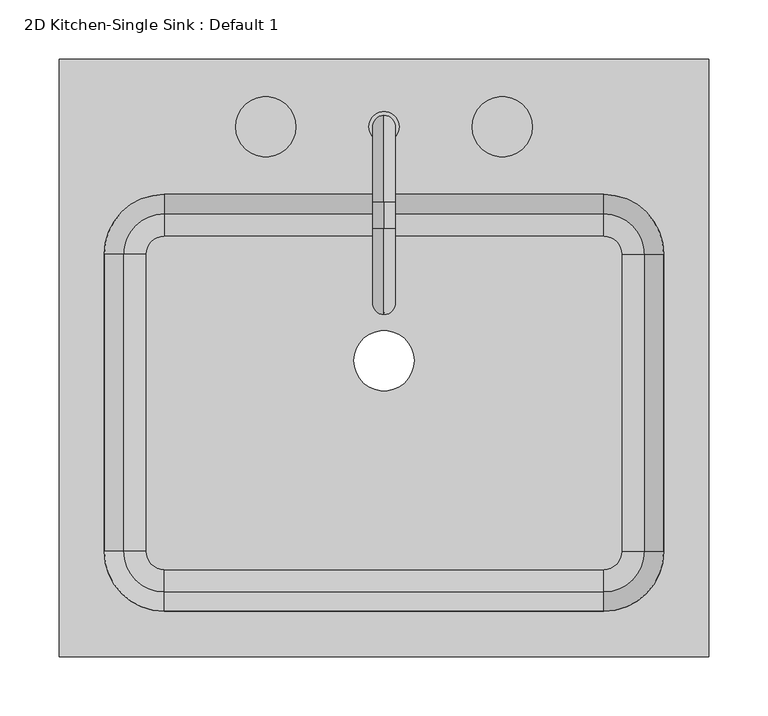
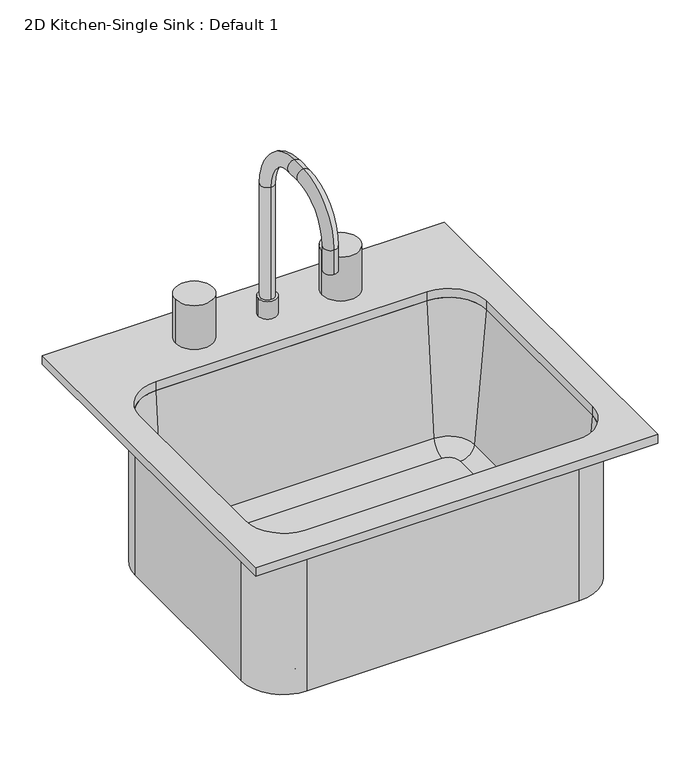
"""IFC4 building model written with IfcOpenShell, lengths in millimetres: flow terminal geometry, 2D Kitchen-Single Sink : Default 1."""

import ifcopenshell
import ifcopenshell.guid

model = None  # the IFC model being written
_history = None  # IfcOwnerHistory: only IFC2X3 demands one
_inside = {}  # id of a spatial element -> (the spatial element, [elements in it])
_under = {}  # id of a project, library or spatial element -> (it, [spatial elements below it])
_declared = {}  # id of a project -> (the project, [libraries it declares])
_typed = {}  # id of a type object -> (the type object, [elements of that type])
_made_of = {}  # id of a material, layer set ... -> (it, [elements and type objects made of it])


def new_model(schema):
    """Start an empty IFC model of exactly this schema.

    Asked for "IFC4X3", IfcOpenShell would pick the latest addendum, in which some entities
    have other attributes; the version numbers below select the first issue.
    IFC2X3 requires an IfcOwnerHistory on every rooted entity: one is made here for all.
    """
    global model, _history
    if schema == "IFC4X3":
        model = ifcopenshell.file(schema_version=(4, 3, 0, 0))
    else:
        model = ifcopenshell.file(schema=schema)
    _inside.clear()
    _under.clear()
    _declared.clear()
    _typed.clear()
    _made_of.clear()
    _history = None
    if model.schema == "IFC2X3":
        org = make("IfcOrganization", Name="unknown")
        user = make(
            "IfcPersonAndOrganization",
            ThePerson=make("IfcPerson", FamilyName="unknown"),
            TheOrganization=org,
        )
        app = make(
            "IfcApplication",
            ApplicationDeveloper=org,
            Version="unknown",
            ApplicationFullName="unknown",
            ApplicationIdentifier="unknown",
        )
        _history = make(
            "IfcOwnerHistory",
            OwningUser=user,
            OwningApplication=app,
            ChangeAction="ADDED",
            CreationDate=0,
        )
    return model


def make(cls, **values):
    """One entity of the class cls with the attributes given. An attribute that is None is left unset."""
    return model.create_entity(
        cls, **{name: value for name, value in values.items() if value is not None}
    )


def rooted(cls, **values):
    """An entity with a GlobalId (a new one), such as an element, a storey or a relation."""
    return make(cls, GlobalId=ifcopenshell.guid.new(), OwnerHistory=_history, **values)


def si_unit(unit_type, name, prefix=None):
    """IfcSIUnit, for example si_unit("LENGTHUNIT", "METRE", prefix="MILLI")."""
    return make("IfcSIUnit", UnitType=unit_type, Prefix=prefix, Name=name)


def assignment(units):
    """IfcUnitAssignment: the units of a project."""
    return None if units is None else make("IfcUnitAssignment", Units=units)


def point(xyz):
    """IfcCartesianPoint."""
    return None if xyz is None else make("IfcCartesianPoint", Coordinates=xyz)


def direction(xyz):
    """IfcDirection."""
    return None if xyz is None else make("IfcDirection", DirectionRatios=xyz)


def frame(location, z_axis=None, x_axis=None):
    """IfcAxis2Placement3D, a coordinate frame: its origin and axes. An axis left out is left unset."""
    return make(
        "IfcAxis2Placement3D",
        Location=point(location),
        Axis=direction(z_axis),
        RefDirection=direction(x_axis),
    )


def frame_2d(location, x_axis=None):
    """IfcAxis2Placement2D, a coordinate frame in the plane: its origin and x axis."""
    return make(
        "IfcAxis2Placement2D", Location=point(location), RefDirection=direction(x_axis)
    )


def origin():
    """The frame at (0, 0, 0) with its axes left unset."""
    return frame((0.0, 0.0, 0.0))


def place(relative_to, where):
    """IfcLocalPlacement: puts the frame where relative to a parent placement (None: the world)."""
    return make(
        "IfcLocalPlacement", PlacementRelTo=relative_to, RelativePlacement=where
    )


def context(
    kind, dimensions, precision=None, world=None, true_north=None, identifier=None
):
    """IfcGeometricRepresentationContext, for example the 3D "Model" context."""
    return make(
        "IfcGeometricRepresentationContext",
        ContextIdentifier=identifier,
        ContextType=kind,
        CoordinateSpaceDimension=dimensions,
        Precision=precision,
        WorldCoordinateSystem=world,
        TrueNorth=true_north,
    )


def project(units=None, contexts=None):
    """IfcProject with its units and contexts."""
    return rooted(
        "IfcProject",
        Name="project",
        RepresentationContexts=contexts,
        UnitsInContext=assignment(units),
    )


def spatial(cls, under=None, at=None, **own):
    """A site, building, storey or space (cls), placed at a placement, below another one or the project."""
    s = rooted(cls, ObjectPlacement=at, **own)
    if under is not None:
        _under.setdefault(under.id(), (under, []))[1].append(s)
    return s


def polyline(points):
    """IfcPolyline through the points."""
    return make("IfcPolyline", Points=[point(p) for p in points])


def circle_curve(where, radius):
    """IfcCircle in the frame where."""
    return make("IfcCircle", Position=where, Radius=radius)


def ellipse_curve(where, semi_axis1, semi_axis2):
    """IfcEllipse in the frame where."""
    return make(
        "IfcEllipse", Position=where, SemiAxis1=semi_axis1, SemiAxis2=semi_axis2
    )


def trimmed(basis, trim1, trim2, sense, master):
    """IfcTrimmedCurve: the piece of a basis curve between two trims."""
    return make(
        "IfcTrimmedCurve",
        BasisCurve=basis,
        Trim1=trim1,
        Trim2=trim2,
        SenseAgreement=sense,
        MasterRepresentation=master,
    )


def segment(curve, same_sense, transition):
    """IfcCompositeCurveSegment."""
    return make(
        "IfcCompositeCurveSegment",
        Transition=transition,
        SameSense=same_sense,
        ParentCurve=curve,
    )


def composite_curve(segments, self_intersect=None):
    """IfcCompositeCurve: segments joined end to end."""
    return make("IfcCompositeCurve", Segments=segments, SelfIntersect=self_intersect)


def outline(outer, holes=None, kind="AREA"):
    """IfcArbitraryClosedProfileDef: a profile drawn as a closed curve; with holes, ...WithVoids."""
    if holes is None:
        return make("IfcArbitraryClosedProfileDef", ProfileType=kind, OuterCurve=outer)
    return make(
        "IfcArbitraryProfileDefWithVoids",
        ProfileType=kind,
        OuterCurve=outer,
        InnerCurves=holes,
    )


def extrude(swept, where, along, depth):
    """IfcExtrudedAreaSolid: the profile swept, set in the frame where, extruded along a direction by depth."""
    return make(
        "IfcExtrudedAreaSolid",
        SweptArea=swept,
        Position=where,
        ExtrudedDirection=direction(along),
        Depth=depth,
    )


def shape(context_of_items, identifier, shape_type, items):
    """IfcShapeRepresentation: the items that make up one representation, for example the "Body"."""
    return make(
        "IfcShapeRepresentation",
        ContextOfItems=context_of_items,
        RepresentationIdentifier=identifier,
        RepresentationType=shape_type,
        Items=items,
    )


def source(mapping_origin, context_of_items, identifier, shape_type, items):
    """IfcRepresentationMap: a shape defined once, which mapped items show again and again."""
    return make(
        "IfcRepresentationMap",
        MappingOrigin=mapping_origin,
        MappedRepresentation=shape(context_of_items, identifier, shape_type, items),
    )


def transform(
    local_origin,
    x_axis=None,
    y_axis=None,
    z_axis=None,
    scale=None,
    scale2=None,
    scale3=None,
    uniform=True,
):
    """IfcCartesianTransformationOperator3D, or its non-uniform kind. x_axis, y_axis, z_axis: its Axis1, 2, 3."""
    if uniform:
        return make(
            "IfcCartesianTransformationOperator3D",
            Axis1=direction(x_axis),
            Axis2=direction(y_axis),
            LocalOrigin=point(local_origin),
            Scale=scale,
            Axis3=direction(z_axis),
        )
    return make(
        "IfcCartesianTransformationOperator3DnonUniform",
        Axis1=direction(x_axis),
        Axis2=direction(y_axis),
        LocalOrigin=point(local_origin),
        Scale=scale,
        Axis3=direction(z_axis),
        Scale2=scale2,
        Scale3=scale3,
    )


def mapped(mapping_source, mapping_target):
    """IfcMappedItem: shows the shape of a source again, moved by a transform."""
    return make(
        "IfcMappedItem", MappingSource=mapping_source, MappingTarget=mapping_target
    )


def made_of(thing, what):
    """Note that an element or type object is made of a material, layer set ...; save() writes the relation."""
    if what is not None:
        _made_of.setdefault(what.id(), (what, []))[1].append(thing)
    return thing


def element(
    cls,
    number,
    at=None,
    inside=None,
    cuts=None,
    type_object=None,
    material=None,
    context=None,
    identifier="Body",
    shape_type=None,
    held_by="IfcProductDefinitionShape",
    body=None,
    shapes=None,
    **own,
):
    """One element of the class cls, such as IfcWall. Its Tag is "e" and its number.

    at: its placement. inside: the storey or other place that contains it. cuts: it is an
    opening in that element (IfcRelVoidsElement). A single representation is given by context,
    identifier, shape_type and body (its items); several are given by shapes. held_by: the class
    of the entity that holds the representations. save() writes the other relations.
    """
    e = rooted(cls, Tag="e%d" % number, ObjectPlacement=at, **own)
    if body is not None:
        shapes = [shape(context, identifier, shape_type, body)]
    if shapes is not None:
        e.Representation = make(held_by, Representations=shapes)
    if inside is not None:
        _inside.setdefault(inside.id(), (inside, []))[1].append(e)
    if cuts is not None:
        rooted(
            "IfcRelVoidsElement", RelatingBuildingElement=cuts, RelatedOpeningElement=e
        )
    if type_object is not None:
        _typed.setdefault(type_object.id(), (type_object, []))[1].append(e)
    return made_of(e, material)


def aggregate(whole, parts):
    """IfcRelAggregates: a whole, such as a stair, and the parts it consists of."""
    return rooted("IfcRelAggregates", RelatingObject=whole, RelatedObjects=parts)


def save(model, path):
    """Write the relations noted so far, then the file.

    IfcRelAggregates (storeys below a building ...), IfcRelContainedInSpatialStructure (elements
    in a storey), IfcRelDefinesByType, IfcRelAssociatesMaterial and IfcRelDeclares: one each for
    every whole, place, type object, material and project.
    """
    for whole, parts in _under.values():
        aggregate(whole, parts)
    for where, things in _inside.values():
        rooted(
            "IfcRelContainedInSpatialStructure",
            RelatedElements=things,
            RelatingStructure=where,
        )
    for kind, things in _typed.values():
        rooted("IfcRelDefinesByType", RelatedObjects=things, RelatingType=kind)
    for what, things in _made_of.values():
        rooted("IfcRelAssociatesMaterial", RelatedObjects=things, RelatingMaterial=what)
    for by, libraries in _declared.values():
        rooted("IfcRelDeclares", RelatingContext=by, RelatedDefinitions=libraries)
    model.write(path)


def plane_surface(at):
    """IfcPlane: the flat surface through the origin of the frame at, square to its z axis."""
    return make("IfcPlane", Position=at)


def cylinder_surface(at, radius):
    """IfcCylindricalSurface: all points at the distance radius from the z axis of the frame at."""
    return make("IfcCylindricalSurface", Position=at, Radius=radius)


def revolved_surface(curve, axis_point, axis_direction):
    """IfcSurfaceOfRevolution: the curve turned about the line through axis_point along axis_direction."""
    return make(
        "IfcSurfaceOfRevolution",
        SweptCurve=make("IfcArbitraryOpenProfileDef", ProfileType="CURVE", Curve=curve),
        AxisPosition=make("IfcAxis1Placement", Location=point(axis_point), Axis=direction(axis_direction)),
    )


def advanced_brep(points, edges, surfaces, faces):
    """IfcAdvancedBrep: a solid bounded by faces that lie on surfaces and meet in shared edges.

    An edge is (start, end): straight between two places in points (the first is 0);
    or (start, end, curve); or (start, end, curve, False) where it runs against its curve.
    A face is (place in surfaces, loops), or (place, loops, False) where it looks against
    its surface's normal. A loop lists edges by number (the first is 1), with a minus sign
    where the edge is run from its end to its start. The first loop is the outer one.
    """
    corners = [point(p) for p in points]
    vertices = [make("IfcVertexPoint", VertexGeometry=c) for c in corners]
    made = []
    for start, end, *more in edges:
        made.append(
            make(
                "IfcEdgeCurve",
                EdgeStart=vertices[start],
                EdgeEnd=vertices[end],
                EdgeGeometry=more[0] if more else make("IfcPolyline", Points=[corners[start], corners[end]]),
                SameSense=more[1] if len(more) > 1 else True,
            )
        )
    hull = []
    for where, loops, *sense in faces:
        bounds = []
        for j, loop in enumerate(loops):
            ring = [make("IfcOrientedEdge", EdgeElement=made[abs(k) - 1], Orientation=k > 0) for k in loop]
            bounds.append(
                make(
                    "IfcFaceOuterBound" if j == 0 else "IfcFaceBound",
                    Bound=make("IfcEdgeLoop", EdgeList=ring),
                    Orientation=True,
                )
            )
        hull.append(make("IfcAdvancedFace", Bounds=bounds, FaceSurface=surfaces[where], SameSense=sense[0] if sense else True))
    return make("IfcAdvancedBrep", Outer=make("IfcClosedShell", CfsFaces=hull))


def flow_terminal_2d_kitchen_single_sink_default_1_ebf750c8(model_context):
    return source(origin(), model_context, "Body", "SolidModel", [
        advanced_brep(
        [(258.6392406, 89.7954011, 546.1), (201.4892406, 146.9454011, 546.1), (201.4892406, 146.9454011, 762.0), (258.6392406, 89.7954011, 762.0), (258.6392406, -161.3045989, 546.1), (201.4892406, -218.4545989, 546.1), (-170.1107594, -218.4545989, 546.1), (-227.2607594, -161.3045989, 546.1), (-227.2607594, 89.7954011, 546.1), (-170.1107594, 146.9454011, 546.1), (-9.7107594, 0.0, 546.1), (41.0892406, 0.0, 546.1), (216.7776588, 89.7954011, 555.625), (201.4892406, 105.0838193, 555.625), (-170.1107594, 105.0838193, 555.625), (-185.3991776, 89.7954011, 555.625), (-185.3991776, -161.3045989, 555.625), (-170.1107594, -176.5930171, 555.625), (201.4892406, -176.5930171, 555.625), (216.7776588, -161.3045989, 555.625), (-9.7107594, 0.0, 555.625), (41.0892406, 0.0, 555.625), (235.7551678, 89.7954011, 573.0146831), (201.4892406, 124.0613283, 573.0146831), (252.2892406, 89.7954011, 762.0), (201.4892406, 140.5954011, 762.0), (258.6392406, -161.3045989, 762.0), (235.7551678, -161.3045989, 573.0146831), (252.2892406, -161.3045989, 762.0), (201.4892406, -218.4545989, 762.0), (201.4892406, -195.5705261, 573.0146831), (201.4892406, -212.1045989, 762.0), (-170.1107594, -218.4545989, 762.0), (-170.1107594, -195.5705261, 573.0146831), (-170.1107594, -212.1045989, 762.0), (-227.2607594, -161.3045989, 762.0), (-204.3766866, -161.3045989, 573.0146831), (-220.9107594, -161.3045989, 762.0), (-227.2607594, 89.7954011, 762.0), (-204.3766866, 89.7954011, 573.0146831), (-220.9107594, 89.7954011, 762.0), (-170.1107594, 146.9454011, 762.0), (-170.1107594, 124.0613283, 573.0146831), (-170.1107594, 140.5954011, 762.0)],
        [
            (0, 1, circle_curve(frame((201.4892406, 89.7954011, 546.1), z_axis=(0.0, 0.0, 1.0), x_axis=(0.0, 1.0, 0.0)), 57.15)),
            (1, 2),
            (2, 3, circle_curve(frame((201.4892406, 89.7954011, 762.0), z_axis=(0.0, 0.0, -1.0), x_axis=(0.0, 1.0, 0.0)), 57.15)),
            (3, 0),
            (0, 4),
            (4, 5, circle_curve(frame((201.4892406, -161.3045989, 546.1), z_axis=(0.0, 0.0, -1.0), x_axis=(1.0, 0.0, 0.0)), 57.15)),
            (5, 6),
            (6, 7, circle_curve(frame((-170.1107594, -161.3045989, 546.1), z_axis=(0.0, 0.0, -1.0), x_axis=(0.0, -1.0, 0.0)), 57.15)),
            (7, 8),
            (8, 9, circle_curve(frame((-170.1107594, 89.7954011, 546.1), z_axis=(0.0, 0.0, -1.0), x_axis=(-1.0, 0.0, 0.0)), 57.15)),
            (9, 1),
            (10, 11, circle_curve(frame((15.6892406, 0.0, 546.1), z_axis=(0.0, 0.0, 1.0), x_axis=(1.0, 0.0, 0.0)), 25.4)),
            (11, 10, circle_curve(frame((15.6892406, 0.0, 546.1), z_axis=(0.0, 0.0, 1.0), x_axis=(1.0, 0.0, 0.0)), 25.4)),
            (12, 13, circle_curve(frame((201.4892406, 89.7954011, 555.625), z_axis=(0.0, 0.0, 1.0), x_axis=(0.0, 1.0, 0.0)), 15.2884182)),
            (13, 14),
            (14, 15, circle_curve(frame((-170.1107594, 89.7954011, 555.625), z_axis=(0.0, 0.0, 1.0), x_axis=(-1.0, 0.0, 0.0)), 15.2884182)),
            (15, 16),
            (16, 17, circle_curve(frame((-170.1107594, -161.3045989, 555.625), z_axis=(0.0, 0.0, 1.0), x_axis=(0.0, -1.0, 0.0)), 15.2884182)),
            (17, 18),
            (18, 19, circle_curve(frame((201.4892406, -161.3045989, 555.625), z_axis=(0.0, 0.0, 1.0), x_axis=(1.0, 0.0, 0.0)), 15.2884182)),
            (19, 12),
            (20, 21, circle_curve(frame((15.6892406, 0.0, 555.625), z_axis=(0.0, 0.0, -1.0), x_axis=(1.0, 0.0, 0.0)), 25.4)),
            (21, 20, circle_curve(frame((15.6892406, 0.0, 555.625), z_axis=(0.0, 0.0, -1.0), x_axis=(1.0, 0.0, 0.0)), 25.4)),
            (12, 22, circle_curve(frame((216.7776588, 89.7954011, 574.675), z_axis=(0.0, -1.0, 0.0), x_axis=(1.0, 0.0, 0.0)), 19.05)),
            (22, 23, circle_curve(frame((201.4892406, 89.7954011, 573.0146831), z_axis=(0.0, 0.0, 1.0), x_axis=(0.0, 1.0, 0.0)), 34.2659272)),
            (23, 13, circle_curve(frame((201.4892406, 105.0838193, 574.675), z_axis=(-1.0, 0.0, 0.0), x_axis=(0.0, 1.0, 0.0)), 19.05)),
            (22, 24),
            (24, 25, circle_curve(frame((201.4892406, 89.7954011, 762.0), z_axis=(0.0, 0.0, 1.0), x_axis=(0.0, 1.0, 0.0)), 50.8)),
            (25, 23),
            (2, 25),
            (24, 3),
            (3, 26),
            (26, 4),
            (19, 27, circle_curve(frame((216.7776588, -161.3045989, 574.675), z_axis=(0.0, -1.0, 0.0), x_axis=(1.0, 0.0, 0.0)), 19.05)),
            (27, 22),
            (27, 28),
            (28, 24),
            (28, 26),
            (26, 29, circle_curve(frame((201.4892406, -161.3045989, 762.0), z_axis=(0.0, 0.0, -1.0), x_axis=(1.0, 0.0, 0.0)), 57.15)),
            (29, 5),
            (18, 30, circle_curve(frame((201.4892406, -176.5930171, 574.675), z_axis=(-1.0, 0.0, 0.0), x_axis=(0.0, -1.0, 0.0)), 19.05)),
            (30, 27, circle_curve(frame((201.4892406, -161.3045989, 573.0146831), z_axis=(0.0, 0.0, 1.0), x_axis=(1.0, 0.0, 0.0)), 34.2659272)),
            (30, 31),
            (31, 28, circle_curve(frame((201.4892406, -161.3045989, 762.0), z_axis=(0.0, 0.0, 1.0), x_axis=(1.0, 0.0, 0.0)), 50.8)),
            (31, 29),
            (29, 32),
            (32, 6),
            (17, 33, circle_curve(frame((-170.1107594, -176.5930171, 574.675), z_axis=(-1.0, 0.0, 0.0), x_axis=(0.0, -1.0, 0.0)), 19.05)),
            (33, 30),
            (33, 34),
            (34, 31),
            (34, 32),
            (32, 35, circle_curve(frame((-170.1107594, -161.3045989, 762.0), z_axis=(0.0, 0.0, -1.0), x_axis=(0.0, -1.0, 0.0)), 57.15)),
            (35, 7),
            (16, 36, circle_curve(frame((-185.3991776, -161.3045989, 574.675), z_axis=(0.0, 1.0, 0.0), x_axis=(-1.0, 0.0, 0.0)), 19.05)),
            (36, 33, circle_curve(frame((-170.1107594, -161.3045989, 573.0146831), z_axis=(0.0, 0.0, 1.0), x_axis=(0.0, -1.0, 0.0)), 34.2659272)),
            (36, 37),
            (37, 34, circle_curve(frame((-170.1107594, -161.3045989, 762.0), z_axis=(0.0, 0.0, 1.0), x_axis=(0.0, -1.0, 0.0)), 50.8)),
            (37, 35),
            (35, 38),
            (38, 8),
            (15, 39, circle_curve(frame((-185.3991776, 89.7954011, 574.675), z_axis=(0.0, 1.0, 0.0), x_axis=(-1.0, 0.0, 0.0)), 19.05)),
            (39, 36),
            (39, 40),
            (40, 37),
            (40, 38),
            (38, 41, circle_curve(frame((-170.1107594, 89.7954011, 762.0), z_axis=(0.0, 0.0, -1.0), x_axis=(-1.0, 0.0, 0.0)), 57.15)),
            (41, 9),
            (14, 42, circle_curve(frame((-170.1107594, 105.0838193, 574.675), z_axis=(1.0, 0.0, 0.0), x_axis=(0.0, 1.0, 0.0)), 19.05)),
            (42, 39, circle_curve(frame((-170.1107594, 89.7954011, 573.0146831), z_axis=(0.0, 0.0, 1.0), x_axis=(-1.0, 0.0, 0.0)), 34.2659272)),
            (42, 43),
            (43, 40, circle_curve(frame((-170.1107594, 89.7954011, 762.0), z_axis=(0.0, 0.0, 1.0), x_axis=(-1.0, 0.0, 0.0)), 50.8)),
            (43, 41),
            (41, 2),
            (23, 42),
            (25, 43),
            (20, 10),
            (11, 21),
        ],
        [
            cylinder_surface(frame((201.4892406, 89.7954011, 0.0), z_axis=(0.0, 0.0, -1.0), x_axis=(0.0, 1.0, 0.0)), 57.15),
            plane_surface(frame((201.4892406, 89.7954011, 546.1), z_axis=(0.0, 0.0, -1.0), x_axis=(0.0, 1.0, 0.0))),
            plane_surface(frame((201.4892406, 89.7954011, 555.625), z_axis=(0.0, 0.0, 1.0), x_axis=(0.0, 1.0, 0.0))),
            revolved_surface(trimmed(ellipse_curve(frame((201.4892406, 105.0838193, 574.675), z_axis=(1.0, 0.0, 0.0), x_axis=(0.0, 1.0, 0.0)), 19.05, 19.05), [point((201.4892406, 105.0838193, 555.625))], [point((201.4892406, 124.0613283, 573.0146831))], True, "CARTESIAN"), (201.4892406, 89.7954011, 0.0), (0.0, 0.0, -1.0)),
            revolved_surface(polyline([(201.4892406, 124.0613283, 573.0146831), (201.4892406, 140.5954011, 762.0)]), (201.4892406, 89.7954011, 0.0), (0.0, 0.0, -1.0)),
            plane_surface(frame((201.4892406, 89.7954011, 762.0), z_axis=(0.0, 0.0, 1.0), x_axis=(0.0, 1.0, 0.0))),
            plane_surface(frame((258.6392406, 89.7954011, 762.0), z_axis=(1.0, 0.0, 0.0), x_axis=(0.0, -1.0, 0.0))),
            revolved_surface(polyline([(235.82765880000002, -161.30459890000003, 574.675), (235.82765880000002, 89.7954011, 574.675)]), (216.7776588, 89.7954011, 574.675), (0.0, -1.0, 0.0)),
            plane_surface(frame((235.7551678, 89.7954011, 573.0146831), z_axis=(-0.9961946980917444, 0.0, 0.08715574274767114), x_axis=(0.0, -1.0, 0.0))),
            plane_surface(frame((252.2892406, 89.7954011, 762.0), z_axis=(0.0, 0.0, 1.0), x_axis=(0.0, -1.0, 0.0))),
            cylinder_surface(frame((201.4892406, -161.3045989, 0.0), z_axis=(0.0, 0.0, -1.0), x_axis=(1.0, 0.0, 0.0)), 57.15),
            revolved_surface(trimmed(ellipse_curve(frame((216.7776588, -161.3045989, 574.675), z_axis=(0.0, -1.0, 0.0), x_axis=(1.0, 0.0, 0.0)), 19.05, 19.05), [point((216.7776588, -161.3045989, 555.625))], [point((235.7551678, -161.3045989, 573.0146831))], True, "CARTESIAN"), (201.4892406, -161.3045989, 0.0), (0.0, 0.0, -1.0)),
            revolved_surface(polyline([(235.7551678, -161.3045989, 573.0146831), (252.2892406, -161.3045989, 762.0)]), (201.4892406, -161.3045989, 0.0), (0.0, 0.0, -1.0)),
            plane_surface(frame((201.4892406, -161.3045989, 762.0), z_axis=(0.0, 0.0, 1.0), x_axis=(1.0, 0.0, 0.0))),
            plane_surface(frame((201.4892406, -218.4545989, 762.0), z_axis=(0.0, -1.0, 0.0), x_axis=(-1.0, 0.0, 0.0))),
            revolved_surface(polyline([(-170.11075940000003, -195.6430171, 574.675), (201.4892406, -195.6430171, 574.675)]), (201.4892406, -176.5930171, 574.675), (-1.0, 0.0, 0.0)),
            plane_surface(frame((201.4892406, -195.5705261, 573.0146831), z_axis=(0.0, 0.9961946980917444, 0.08715574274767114), x_axis=(-1.0, 0.0, 0.0))),
            plane_surface(frame((201.4892406, -212.1045989, 762.0), z_axis=(0.0, 0.0, 1.0), x_axis=(-1.0, 0.0, 0.0))),
            cylinder_surface(frame((-170.1107594, -161.3045989, 0.0), z_axis=(0.0, 0.0, -1.0), x_axis=(0.0, -1.0, 0.0)), 57.15),
            revolved_surface(trimmed(ellipse_curve(frame((-170.1107594, -176.5930171, 574.675), z_axis=(-1.0, 0.0, 0.0), x_axis=(0.0, -1.0, 0.0)), 19.05, 19.05), [point((-170.1107594, -176.5930171, 555.625))], [point((-170.1107594, -195.5705261, 573.0146831))], True, "CARTESIAN"), (-170.1107594, -161.3045989, 0.0), (0.0, 0.0, -1.0)),
            revolved_surface(polyline([(-170.1107594, -195.5705261, 573.0146831), (-170.1107594, -212.1045989, 762.0)]), (-170.1107594, -161.3045989, 0.0), (0.0, 0.0, -1.0)),
            plane_surface(frame((-170.1107594, -161.3045989, 762.0), z_axis=(0.0, 0.0, 1.0), x_axis=(0.0, -1.0, 0.0))),
            plane_surface(frame((-227.2607594, -161.3045989, 762.0), z_axis=(-1.0, 0.0, 0.0), x_axis=(0.0, 1.0, 0.0))),
            revolved_surface(polyline([(-204.4491776, 89.79540110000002, 574.675), (-204.4491776, -161.3045989, 574.675)]), (-185.3991776, -161.3045989, 574.675), (0.0, 1.0, 0.0)),
            plane_surface(frame((-204.3766866, -161.3045989, 573.0146831), z_axis=(0.9961946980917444, 0.0, 0.08715574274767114), x_axis=(0.0, 1.0, 0.0))),
            plane_surface(frame((-220.9107594, -161.3045989, 762.0), z_axis=(0.0, 0.0, 1.0), x_axis=(0.0, 1.0, 0.0))),
            cylinder_surface(frame((-170.1107594, 89.7954011, 0.0), z_axis=(0.0, 0.0, -1.0), x_axis=(-1.0, 0.0, 0.0)), 57.15),
            revolved_surface(trimmed(ellipse_curve(frame((-185.3991776, 89.7954011, 574.675), z_axis=(0.0, 1.0, 0.0), x_axis=(-1.0, 0.0, 0.0)), 19.05, 19.05), [point((-185.3991776, 89.7954011, 555.625))], [point((-204.3766866, 89.7954011, 573.0146831))], True, "CARTESIAN"), (-170.1107594, 89.7954011, 0.0), (0.0, 0.0, -1.0)),
            revolved_surface(polyline([(-204.3766866, 89.7954011, 573.0146831), (-220.9107594, 89.7954011, 762.0)]), (-170.1107594, 89.7954011, 0.0), (0.0, 0.0, -1.0)),
            plane_surface(frame((-170.1107594, 89.7954011, 762.0), z_axis=(0.0, 0.0, 1.0), x_axis=(-1.0, 0.0, 0.0))),
            plane_surface(frame((-170.1107594, 146.9454011, 762.0), z_axis=(0.0, 1.0, 0.0), x_axis=(1.0, 0.0, 0.0))),
            revolved_surface(polyline([(201.48924060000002, 124.1338193, 574.675), (-170.1107594, 124.1338193, 574.675)]), (-170.1107594, 105.0838193, 574.675), (1.0, 0.0, 0.0)),
            plane_surface(frame((-170.1107594, 124.0613283, 573.0146831), z_axis=(0.0, -0.9961946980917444, 0.08715574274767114), x_axis=(1.0, 0.0, 0.0))),
            plane_surface(frame((-170.1107594, 140.5954011, 762.0), z_axis=(0.0, 0.0, 1.0), x_axis=(1.0, 0.0, 0.0))),
            revolved_surface(polyline([(41.0892406, 0.0, 546.1), (41.0892406, 0.0, 555.625)]), (15.6892406, 0.0, 0.0), (0.0, 0.0, -1.0)),
        ],
        [
            (0, [[1, 2, 3, 4]]),
            (1, [[-1, 5, 6, 7, 8, 9, 10, 11], [12, 13]]),
            (2, [[14, 15, 16, 17, 18, 19, 20, 21], [22, 23]]),
            (3, [[-14, 24, 25, 26]]),
            (4, [[-25, 27, 28, 29]]),
            (5, [[-3, 30, -28, 31]]),
            (6, [[-4, 32, 33, -5]]),
            (7, [[-24, -21, 34, 35]]),
            (8, [[-27, -35, 36, 37]]),
            (9, [[-31, -37, 38, -32]]),
            (10, [[-33, 39, 40, -6]]),
            (11, [[-34, -20, 41, 42]]),
            (12, [[-36, -42, 43, 44]]),
            (13, [[-38, -44, 45, -39]]),
            (14, [[-40, 46, 47, -7]]),
            (15, [[-41, -19, 48, 49]]),
            (16, [[-43, -49, 50, 51]]),
            (17, [[-45, -51, 52, -46]]),
            (18, [[-47, 53, 54, -8]]),
            (19, [[-48, -18, 55, 56]]),
            (20, [[-50, -56, 57, 58]]),
            (21, [[-52, -58, 59, -53]]),
            (22, [[-54, 60, 61, -9]]),
            (23, [[-55, -17, 62, 63]]),
            (24, [[-57, -63, 64, 65]]),
            (25, [[-59, -65, 66, -60]]),
            (26, [[-61, 67, 68, -10]]),
            (27, [[-62, -16, 69, 70]]),
            (28, [[-64, -70, 71, 72]]),
            (29, [[-66, -72, 73, -67]]),
            (30, [[-2, -11, -68, 74]]),
            (31, [[-26, 75, -69, -15]]),
            (32, [[-29, 76, -71, -75]]),
            (33, [[-30, -74, -73, -76]]),
            (34, [[-22, 77, -13, 78]]),
            (34, [[-23, -78, -12, -77]]),
        ],
    ),
        advanced_brep(
        [(2.9892406, 197.7454011, 800.1), (28.3892406, 197.7454011, 800.1), (15.6892406, 207.2704011, 800.1), (15.6892406, 188.2204011, 800.1), (2.9892406, 197.7454011, 774.7), (28.3892406, 197.7454011, 774.7), (15.6892406, 207.2704011, 962.025), (15.6892406, 188.2204011, 962.025), (15.6892406, 134.2454011, 1035.05), (15.6892406, 134.2454011, 1016.0), (15.6892406, 112.0204011, 1035.05), (15.6892406, 112.0204011, 1016.0), (15.6892406, 38.9954011, 962.025), (15.6892406, 58.0454011, 962.025), (15.6892406, 38.9954011, 927.1), (15.6892406, 58.0454011, 927.1)],
        [
            (0, 1, circle_curve(frame((15.6892406, 197.7454011, 800.1), z_axis=(0.0, 0.0, 1.0), x_axis=(1.0, 0.0, 0.0)), 12.7)),
            (1, 0, circle_curve(frame((15.6892406, 197.7454011, 800.1), z_axis=(0.0, 0.0, 1.0), x_axis=(1.0, 0.0, 0.0)), 12.7)),
            (2, 3, circle_curve(frame((15.6892406, 197.7454011, 800.1), z_axis=(0.0, 0.0, -1.0), x_axis=(0.0, -1.0, 0.0)), 9.525)),
            (3, 2, circle_curve(frame((15.6892406, 197.7454011, 800.1), z_axis=(0.0, 0.0, -1.0), x_axis=(0.0, -1.0, 0.0)), 9.525)),
            (4, 5, circle_curve(frame((15.6892406, 197.7454011, 774.7), z_axis=(0.0, 0.0, -1.0), x_axis=(1.0, 0.0, 0.0)), 12.7)),
            (5, 4, circle_curve(frame((15.6892406, 197.7454011, 774.7), z_axis=(0.0, 0.0, -1.0), x_axis=(1.0, 0.0, 0.0)), 12.7)),
            (0, 4),
            (5, 1),
            (6, 7, circle_curve(frame((15.6892406, 197.7454011, 962.025), z_axis=(0.0, 0.0, -1.0), x_axis=(0.0, -1.0, 0.0)), 9.525)),
            (7, 3),
            (2, 6),
            (7, 6, circle_curve(frame((15.6892406, 197.7454011, 962.025), z_axis=(0.0, 0.0, -1.0), x_axis=(0.0, -1.0, 0.0)), 9.525)),
            (6, 8, circle_curve(frame((15.6892406, 134.2454011, 962.025), z_axis=(1.0, 0.0, 0.0), x_axis=(0.0, 1.0, 0.0)), 73.025)),
            (8, 9, circle_curve(frame((15.6892406, 134.2454011, 1025.525), z_axis=(0.0, 1.0, 0.0), x_axis=(0.0, 0.0, -1.0)), 9.525)),
            (9, 7, circle_curve(frame((15.6892406, 134.2454011, 962.025), z_axis=(-1.0, 0.0, 0.0), x_axis=(0.0, 1.0, 0.0)), 53.975)),
            (9, 8, circle_curve(frame((15.6892406, 134.2454011, 1025.525), z_axis=(0.0, 1.0, 0.0), x_axis=(0.0, 0.0, -1.0)), 9.525)),
            (8, 10),
            (10, 11, circle_curve(frame((15.6892406, 112.0204011, 1025.525), z_axis=(0.0, 1.0, 0.0), x_axis=(0.0, 0.0, -1.0)), 9.525)),
            (11, 9),
            (11, 10, circle_curve(frame((15.6892406, 112.0204011, 1025.525), z_axis=(0.0, 1.0, 0.0), x_axis=(0.0, 0.0, -1.0)), 9.525)),
            (10, 12, circle_curve(frame((15.6892406, 112.0204011, 962.025), z_axis=(1.0, 0.0, 0.0), x_axis=(0.0, 0.0, 1.0)), 73.025)),
            (12, 13, circle_curve(frame((15.6892406, 48.5204011, 962.025), z_axis=(0.0, 0.0, 1.0), x_axis=(0.0, 1.0, 0.0)), 9.525)),
            (13, 11, circle_curve(frame((15.6892406, 112.0204011, 962.025), z_axis=(-1.0, 0.0, 0.0), x_axis=(0.0, 0.0, 1.0)), 53.975)),
            (13, 12, circle_curve(frame((15.6892406, 48.5204011, 962.025), z_axis=(0.0, 0.0, 1.0), x_axis=(0.0, 1.0, 0.0)), 9.525)),
            (14, 15, circle_curve(frame((15.6892406, 48.5204011, 927.1), z_axis=(0.0, 0.0, -1.0), x_axis=(0.0, 1.0, 0.0)), 9.525)),
            (15, 14, circle_curve(frame((15.6892406, 48.5204011, 927.1), z_axis=(0.0, 0.0, -1.0), x_axis=(0.0, 1.0, 0.0)), 9.525)),
            (12, 14),
            (15, 13),
        ],
        [
            plane_surface(frame((28.3892406, 197.7454011, 800.1), z_axis=(0.0, 0.0, 1.0), x_axis=(0.0, 1.0, 0.0))),
            plane_surface(frame((28.3892406, 197.7454011, 774.7), z_axis=(0.0, 0.0, -1.0), x_axis=(0.0, -1.0, 0.0))),
            cylinder_surface(frame((15.6892406, 197.7454011, 774.7), z_axis=(0.0, 0.0, 1.0), x_axis=(1.0, 0.0, 0.0)), 12.7),
            cylinder_surface(frame((15.6892406, 197.7454011, 774.7), z_axis=(0.0, 0.0, -1.0), x_axis=(0.0, -1.0, 0.0)), 9.525),
            revolved_surface(trimmed(ellipse_curve(frame((15.6892406, 197.7454011, 962.025), z_axis=(0.0, 0.0, -1.0), x_axis=(0.0, -1.0, 0.0)), 9.525, 9.525), [point((15.6892406, 207.2704011, 962.025))], [point((15.6892406, 188.2204011, 962.025))], True, "CARTESIAN"), (15.6892406, 134.2454011, 962.025), (1.0, 0.0, 0.0)),
            revolved_surface(trimmed(ellipse_curve(frame((15.6892406, 197.7454011, 962.025), z_axis=(0.0, 0.0, -1.0), x_axis=(0.0, -1.0, 0.0)), 9.525, 9.525), [point((15.6892406, 188.2204011, 962.025))], [point((15.6892406, 207.2704011, 962.025))], True, "CARTESIAN"), (15.6892406, 134.2454011, 962.025), (1.0, 0.0, 0.0)),
            cylinder_surface(frame((15.6892406, 134.2454011, 1025.525), z_axis=(0.0, 1.0, 0.0), x_axis=(0.0, 0.0, -1.0)), 9.525),
            revolved_surface(trimmed(ellipse_curve(frame((15.6892406, 112.0204011, 1025.525), z_axis=(0.0, 1.0, 0.0), x_axis=(0.0, 0.0, -1.0)), 9.525, 9.525), [point((15.6892406, 112.0204011, 1035.05))], [point((15.6892406, 112.0204011, 1016.0))], True, "CARTESIAN"), (15.6892406, 112.0204011, 962.025), (1.0, 0.0, 0.0)),
            revolved_surface(trimmed(ellipse_curve(frame((15.6892406, 112.0204011, 1025.525), z_axis=(0.0, 1.0, 0.0), x_axis=(0.0, 0.0, -1.0)), 9.525, 9.525), [point((15.6892406, 112.0204011, 1016.0))], [point((15.6892406, 112.0204011, 1035.05))], True, "CARTESIAN"), (15.6892406, 112.0204011, 962.025), (1.0, 0.0, 0.0)),
            plane_surface(frame((15.6892406, 38.9954011, 927.1), z_axis=(0.0, 0.0, -1.0), x_axis=(-1.0, 0.0, 0.0))),
            cylinder_surface(frame((15.6892406, 48.5204011, 962.025), z_axis=(0.0, 0.0, 1.0), x_axis=(0.0, 1.0, 0.0)), 9.525),
        ],
        [
            (0, [[1, 2], [3, 4]]),
            (1, [[5, 6]]),
            (2, [[-1, 7, -6, 8]]),
            (2, [[-2, -8, -5, -7]]),
            (3, [[9, 10, -3, 11]]),
            (3, [[12, -11, -4, -10]]),
            (4, [[-9, 13, 14, 15]]),
            (5, [[-12, -15, 16, -13]]),
            (6, [[-14, 17, 18, 19]]),
            (6, [[-16, -19, 20, -17]]),
            (7, [[-18, 21, 22, 23]]),
            (8, [[-20, -23, 24, -21]]),
            (9, [[25, 26]]),
            (10, [[-22, 27, -26, 28]]),
            (10, [[-24, -28, -25, -27]]),
        ],
    ),
        extrude(outline(composite_curve([segment(trimmed(circle_curve(frame_2d((-84.3107594, 197.7454011)), 25.4), [point((-109.7107594, 197.7454011))], [point((-58.9107594, 197.7454011))], False, "CARTESIAN"), True, "CONTINUOUS"), segment(trimmed(circle_curve(frame_2d((-84.3107594, 197.7454011)), 25.4), [point((-58.9107594, 197.7454011))], [point((-109.7107594, 197.7454011))], False, "CARTESIAN"), True, "CONTINUOUS")], self_intersect=False)), frame((0.0, 0.0, 774.7), z_axis=(0.0, 0.0, 1.0), x_axis=(1.0, 0.0, 0.0)), (0.0, 0.0, 1.0), 63.5),
        extrude(outline(composite_curve([segment(trimmed(circle_curve(frame_2d((115.6892406, 197.7454011)), 25.4), [point((90.2892406, 197.7454011))], [point((141.0892406, 197.7454011))], False, "CARTESIAN"), True, "CONTINUOUS"), segment(trimmed(circle_curve(frame_2d((115.6892406, 197.7454011)), 25.4), [point((141.0892406, 197.7454011))], [point((90.2892406, 197.7454011))], False, "CARTESIAN"), True, "CONTINUOUS")], self_intersect=False)), frame((0.0, 0.0, 774.7), z_axis=(0.0, 0.0, 1.0), x_axis=(1.0, 0.0, 0.0)), (0.0, 0.0, 1.0), 63.5),
        extrude(outline(polyline([(290.3892406, 254.8954011), (290.3892406, -250.2045989), (-259.0107594, -250.2045989), (-259.0107594, 254.8954011), (290.3892406, 254.8954011)]), holes=[composite_curve([segment(polyline([(201.4892406, 140.5954011), (-170.1107594, 140.5954011)]), True, "CONTINUOUS"), segment(trimmed(circle_curve(frame_2d((-170.1107594, 89.7954011)), 50.8), [point((-170.1107594, 140.5954011))], [point((-220.9107594, 89.7954011))], True, "CARTESIAN"), True, "CONTINUOUS"), segment(polyline([(-220.9107594, 89.7954011), (-220.9107594, -161.3045989)]), True, "CONTINUOUS"), segment(trimmed(circle_curve(frame_2d((-170.1107594, -161.3045989)), 50.8), [point((-220.9107594, -161.3045989))], [point((-170.1107594, -212.1045989))], True, "CARTESIAN"), True, "CONTINUOUS"), segment(polyline([(-170.1107594, -212.1045989), (201.4892406, -212.1045989)]), True, "CONTINUOUS"), segment(trimmed(circle_curve(frame_2d((201.4892406, -161.3045989)), 50.8), [point((201.4892406, -212.1045989))], [point((252.2892406, -161.3045989))], True, "CARTESIAN"), True, "CONTINUOUS"), segment(polyline([(252.2892406, -161.3045989), (252.2892406, 89.7954011)]), True, "CONTINUOUS"), segment(trimmed(circle_curve(frame_2d((201.4892406, 89.7954011)), 50.8), [point((252.2892406, 89.7954011))], [point((201.4892406, 140.5954011))], True, "CARTESIAN"), True, "CONTINUOUS")], self_intersect=False)]), frame((0.0, 0.0, 762.0), z_axis=(0.0, 0.0, 1.0), x_axis=(1.0, 0.0, 0.0)), (0.0, 0.0, 1.0), 12.7),
    ])


if __name__ == "__main__":
    model = new_model("IFC4")
    model_context = context("Model", 3, world=origin())
    ifc_project = project(units=[si_unit("LENGTHUNIT", "METRE", prefix="MILLI")], contexts=[model_context])
    site = spatial("IfcSite", under=ifc_project)
    building = spatial("IfcBuilding", under=site)
    placement = place(None, origin())
    flow_terminal_2d_kitchen_single_sink_default_1_shape = flow_terminal_2d_kitchen_single_sink_default_1_ebf750c8(model_context)
    element("IfcFlowTerminal", 1, ObjectType="2D Kitchen-Single Sink : Default 1", at=placement, inside=building, context=model_context, shape_type="MappedRepresentation", body=[
        mapped(flow_terminal_2d_kitchen_single_sink_default_1_shape, transform((0.0, 0.0, 0.0), x_axis=(1.0, 0.0, 0.0), y_axis=(0.0, 1.0, 0.0), z_axis=(0.0, 0.0, 1.0))),
    ])
    save(model, "model.ifc")
